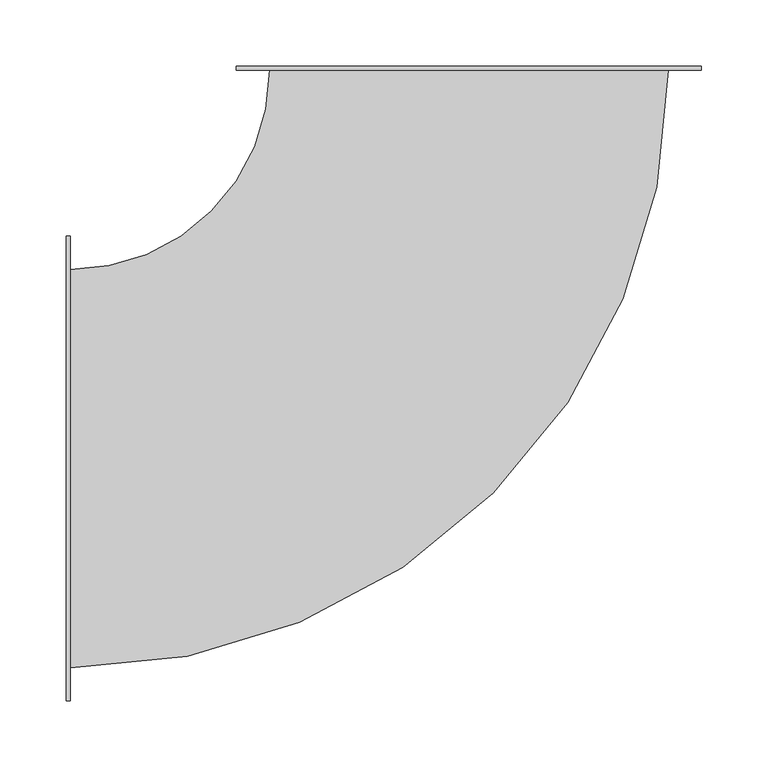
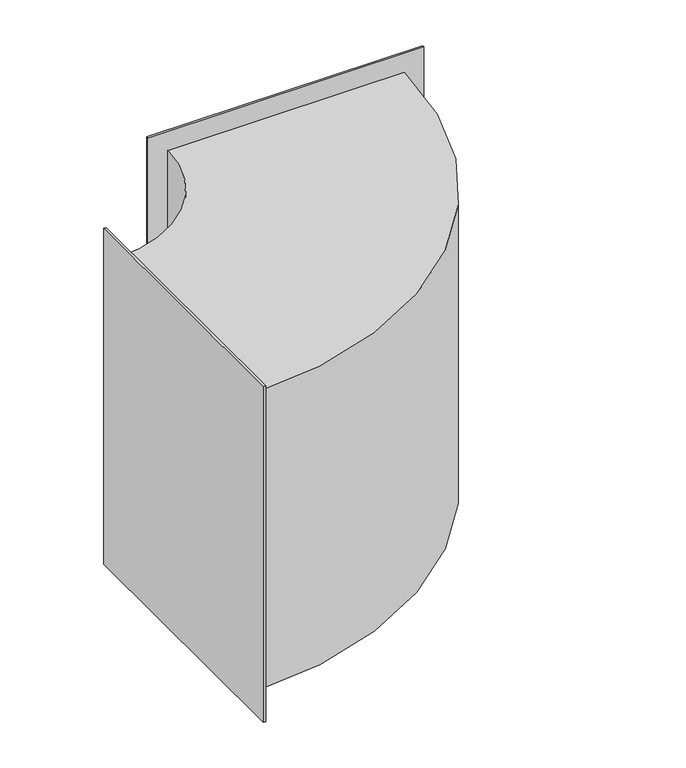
"""IFC4 building model written with IfcOpenShell, lengths in millimetres: duct fitting geometry, 矩形弯头 - 半径 - 法兰 : 回风管弯头 1.0 W."""

from ifc_helpers import new_model, si_unit, point, frame, frame_2d, origin, place, context, project, spatial, polyline, circle_curve, trimmed, segment, composite_curve, outline, extrude, source, transform, mapped, element, save


def duct_fitting_3ba3bf08(model_context):
    return source(origin(), model_context, "Body", "SweptSolid", [
        extrude(outline(polyline([(175.0, 300.0), (-175.0, 300.0), (-175.0, 303.0), (175.0, 303.0), (175.0, 300.0)])), frame((0.0, 0.0, -225.0), z_axis=(0.0, 0.0, 1.0), x_axis=(1.0, 0.0, 0.0)), (0.0, 0.0, 1.0), 450.0),
        extrude(outline(composite_curve([segment(trimmed(circle_curve(frame_2d((-300.0, 300.0)), 450.0), [point((150.0, 300.0))], [point((-300.0, -150.0))], False, "CARTESIAN"), True, "CONTINUOUS"), segment(polyline([(-300.0, -150.0), (-300.0, 150.0)]), True, "CONTINUOUS"), segment(trimmed(circle_curve(frame_2d((-300.0, 300.0)), 150.0), [point((-300.0, 150.0))], [point((-150.0, 300.0))], True, "CARTESIAN"), True, "CONTINUOUS"), segment(polyline([(-150.0, 300.0), (150.0, 300.0)]), True, "CONTINUOUS")], self_intersect=False)), frame((0.0, 0.0, -200.0), z_axis=(0.0, 0.0, 1.0), x_axis=(1.0, 0.0, 0.0)), (0.0, 0.0, 1.0), 400.0),
        extrude(outline(polyline([(-300.0, 175.0), (-300.0, -175.0), (-303.0, -175.0), (-303.0, 175.0), (-300.0, 175.0)])), frame((0.0, 0.0, -225.0), z_axis=(0.0, 0.0, 1.0), x_axis=(1.0, 0.0, 0.0)), (0.0, 0.0, 1.0), 450.0),
    ])


if __name__ == "__main__":
    model = new_model("IFC4")
    model_context = context("Model", 3, world=origin())
    ifc_project = project(units=[si_unit("LENGTHUNIT", "METRE", prefix="MILLI")], contexts=[model_context])
    site = spatial("IfcSite", under=ifc_project)
    building = spatial("IfcBuilding", under=site)
    placement = place(None, origin())
    duct_fitting_shape = duct_fitting_3ba3bf08(model_context)
    element("IfcDuctFitting", 1, ObjectType="矩形弯头 - 半径 - 法兰 : 回风管弯头 1.0 W", at=placement, inside=building, context=model_context, shape_type="MappedRepresentation", body=[
        mapped(duct_fitting_shape, transform((0.0, 0.0, 0.0), x_axis=(1.0, 0.0, 0.0), y_axis=(0.0, 1.0, 0.0), z_axis=(0.0, 0.0, 1.0))),
    ])
    save(model, "model.ifc")
